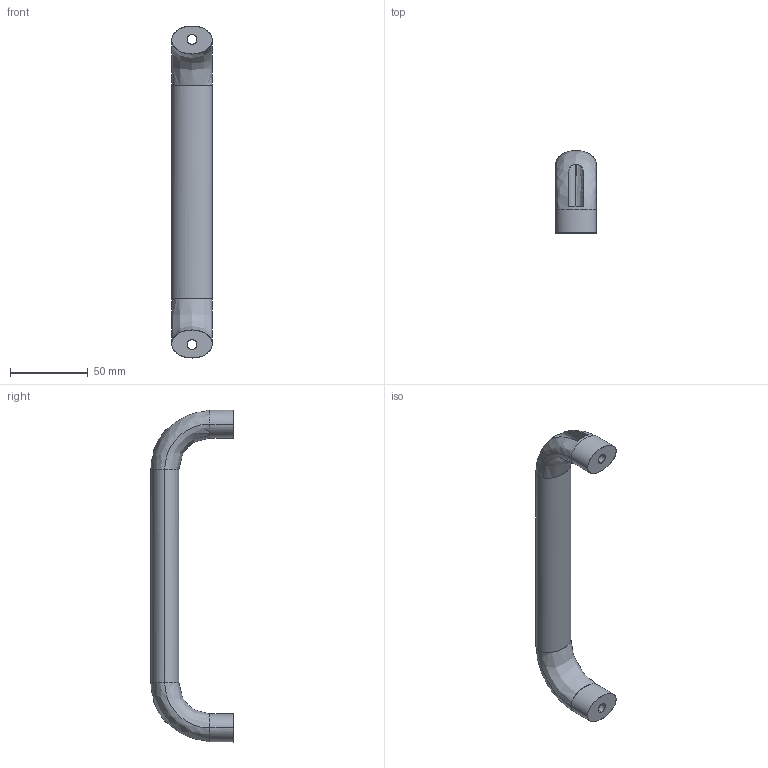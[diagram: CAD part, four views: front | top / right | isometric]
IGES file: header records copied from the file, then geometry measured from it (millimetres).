
Start section: SolidWorks IGES file using analytic representation for surfaces
Global section: file name: C:\Documents and Settings\Deathkiller\桌面\3D IGES\U型把手\MS-746\p=196.IGS; native system: SolidWorks 2006 by SolidWorks Corporation; preprocessor: SolidWorks 2006 by SolidWorks Corporation; author: Deathkiller; date: 080624.173150; units: millimetre
Bounding box: 26 x 53 x 213.15 mm (x, y, z)
Surface area: 20190.8 mm2 (no closed solid volume)
Topology: 0 solids, 0 shells, 28 faces, 480 edges, 480 vertices
Faces by surface type: bspline 20, revolution 8
